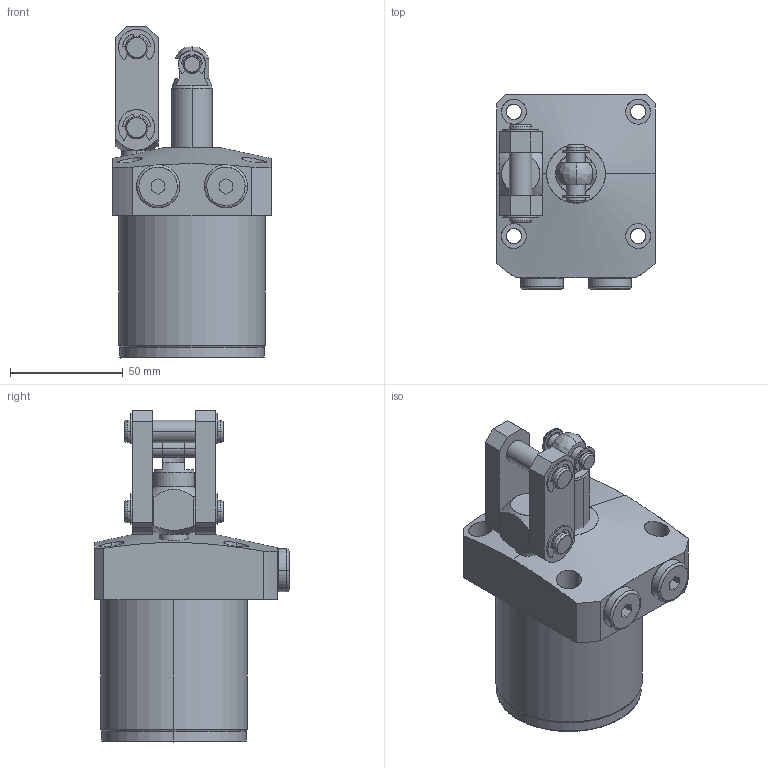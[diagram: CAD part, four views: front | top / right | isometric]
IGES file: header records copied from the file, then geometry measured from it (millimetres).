
Start section: SolidWorks IGES file using analytic representation for surfaces
Global section: file name: C:\Documents and Settings\nijil\My Documents\Clasys1\LQ Series\65\0401-0303.IGS; native system: SolidWorks 2010; preprocessor: SolidWorks 2010; author: nijil; date: 130723.130616; units: millimetre
Bounding box: 70 x 86 x 147 mm (x, y, z)
Surface area: 47914.1 mm2 (no closed solid volume)
Topology: 0 solids, 0 shells, 272 faces, 4190 edges, 4184 vertices
Faces by surface type: revolution 154, bspline 118
